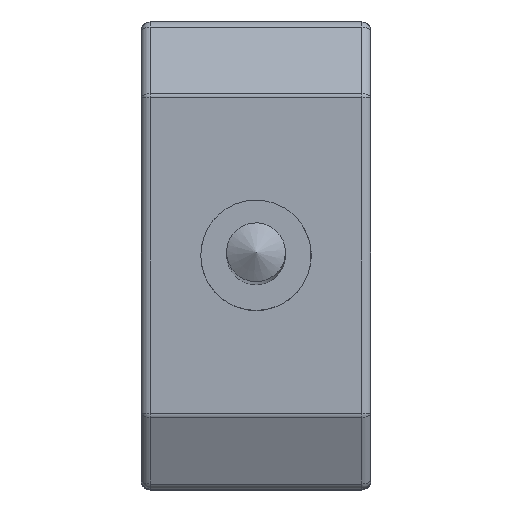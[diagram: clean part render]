
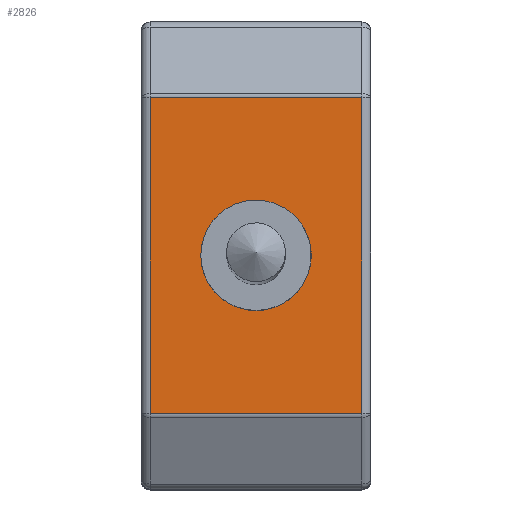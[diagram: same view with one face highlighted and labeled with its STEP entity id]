
A CAD part, top view. The second image highlights one B-rep face of the part: STEP entity #2826.
In plain terms, the highlighted planar face has unit normal (0, 0, 1).
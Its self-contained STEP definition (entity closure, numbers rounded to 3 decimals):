
#14 = CARTESIAN_POINT ( 'NONE',  ( -30.257, -47.041, -18.589 ) ) ;
#44 = DIRECTION ( 'NONE',  ( 0., -1., 0. ) ) ;
#195 = ORIENTED_EDGE ( 'NONE', *, *, #4047, .T. ) ;
#294 = CARTESIAN_POINT ( 'NONE',  ( -30.257, -25.759, -18.589 ) ) ;
#298 = CARTESIAN_POINT ( 'NONE',  ( -36.507, -38.459, -18.589 ) ) ;
#336 = CARTESIAN_POINT ( 'NONE',  ( -30.757, -47.041, -18.589 ) ) ;
#409 = VERTEX_POINT ( 'NONE', #4253 ) ;
#471 = LINE ( 'NONE', #1962, #2304 ) ;
#702 = DIRECTION ( 'NONE',  ( 0., 1., 0. ) ) ;
#1043 = CARTESIAN_POINT ( 'NONE',  ( -30.757, -29.878, -18.589 ) ) ;
#1076 = DIRECTION ( 'NONE',  ( 0., -1., 0. ) ) ;
#1129 = CIRCLE ( 'NONE', #1755, 3. ) ;
#1150 = LINE ( 'NONE', #2347, #2041 ) ;
#1710 = CARTESIAN_POINT ( 'NONE',  ( -30.257, -29.878, -18.589 ) ) ;
#1755 = AXIS2_PLACEMENT_3D ( 'NONE', #298, #3985, #1076 ) ;
#1794 = VERTEX_POINT ( 'NONE', #336 ) ;
#1962 = CARTESIAN_POINT ( 'NONE',  ( -42.257, -25.759, -18.589 ) ) ;
#1982 = VECTOR ( 'NONE', #2585, 1000. ) ;
#2041 = VECTOR ( 'NONE', #3010, 1000. ) ;
#2082 = EDGE_CURVE ( 'NONE', #409, #3105, #471, .T. ) ;
#2304 = VECTOR ( 'NONE', #44, 1000. ) ;
#2335 = EDGE_CURVE ( 'NONE', #2466, #2466, #1129, .T. ) ;
#2347 = CARTESIAN_POINT ( 'NONE',  ( -30.757, -29.759, -18.589 ) ) ;
#2450 = ORIENTED_EDGE ( 'NONE', *, *, #3533, .T. ) ;
#2466 = VERTEX_POINT ( 'NONE', #3935 ) ;
#2585 = DIRECTION ( 'NONE',  ( 1., 0., 0. ) ) ;
#2651 = FACE_OUTER_BOUND ( 'NONE', #3871, .T. ) ;
#2652 = LINE ( 'NONE', #14, #1982 ) ;
#2750 = AXIS2_PLACEMENT_3D ( 'NONE', #294, #4768, #702 ) ;
#2826 = ADVANCED_FACE ( 'NONE', ( #4507, #2651 ), #4140, .F. ) ;
#2897 = VERTEX_POINT ( 'NONE', #1043 ) ;
#3010 = DIRECTION ( 'NONE',  ( 0., 1., 0. ) ) ;
#3105 = VERTEX_POINT ( 'NONE', #4667 ) ;
#3378 = ORIENTED_EDGE ( 'NONE', *, *, #3421, .T. ) ;
#3421 = EDGE_CURVE ( 'NONE', #2897, #409, #4213, .T. ) ;
#3533 = EDGE_CURVE ( 'NONE', #3105, #1794, #2652, .T. ) ;
#3769 = ORIENTED_EDGE ( 'NONE', *, *, #2082, .T. ) ;
#3801 = ORIENTED_EDGE ( 'NONE', *, *, #2335, .F. ) ;
#3820 = VECTOR ( 'NONE', #4633, 1000. ) ;
#3871 = EDGE_LOOP ( 'NONE', ( #195, #3378, #3769, #2450 ) ) ;
#3935 = CARTESIAN_POINT ( 'NONE',  ( -36.507, -41.459, -18.589 ) ) ;
#3985 = DIRECTION ( 'NONE',  ( 0., 0., 1. ) ) ;
#4047 = EDGE_CURVE ( 'NONE', #1794, #2897, #1150, .T. ) ;
#4140 = PLANE ( 'NONE',  #2750 ) ;
#4213 = LINE ( 'NONE', #1710, #3820 ) ;
#4253 = CARTESIAN_POINT ( 'NONE',  ( -42.257, -29.878, -18.589 ) ) ;
#4507 = FACE_BOUND ( 'NONE', #4546, .T. ) ;
#4546 = EDGE_LOOP ( 'NONE', ( #3801 ) ) ;
#4633 = DIRECTION ( 'NONE',  ( -1., 0., 0. ) ) ;
#4667 = CARTESIAN_POINT ( 'NONE',  ( -42.257, -47.041, -18.589 ) ) ;
#4768 = DIRECTION ( 'NONE',  ( 0., 0., -1. ) ) ;
